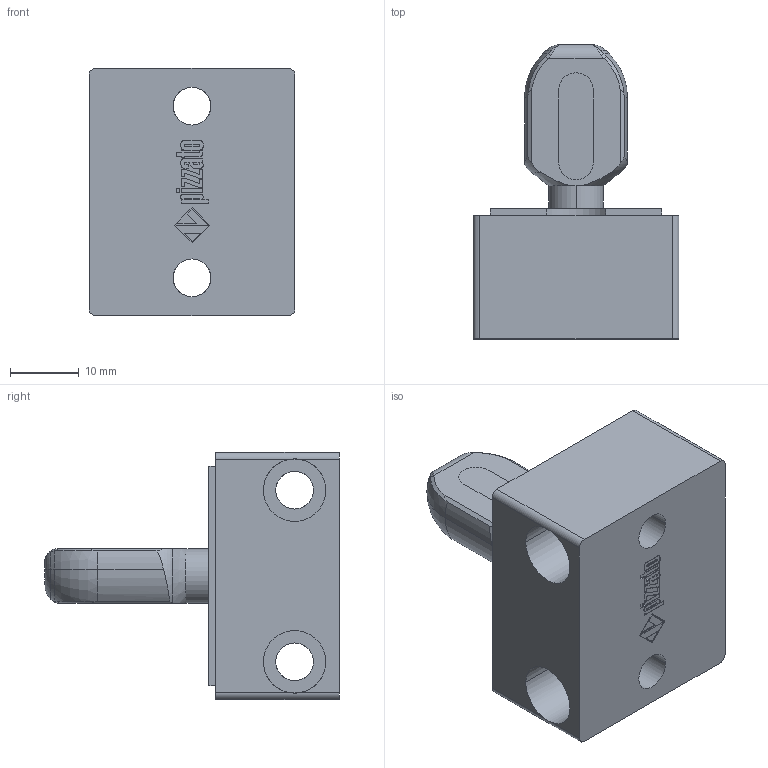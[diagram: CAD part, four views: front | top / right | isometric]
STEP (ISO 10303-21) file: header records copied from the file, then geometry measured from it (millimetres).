
FILE_DESCRIPTION (( 'STEP AP203' ), '1' );
FILE_NAME ('ZF_STEP_VN_NX-F6x.STEP', '2025-08-04T09:08:37', ( '' ), ( '' ), 'SwSTEP 2.0', 'SolidWorks 2023', '' );
FILE_SCHEMA (( 'CONFIG_CONTROL_DESIGN' ));
Length unit declared in the file: millimetre
Products named in the file (3): ZF_STEP_VN_NX-F6x; NX-Perno azionatore_default; VN_NX-F6x_web
Assembly tree (2 placements, depth 2):
  ZF_STEP_VN_NX-F6x
    VN_NX-F6x_web
    NX-Perno azionatore_default
Bounding box: 30 x 42.9 x 36 mm (x, y, z)
Volume: 17115.7 mm3; surface area: 9368.6 mm2
Topology: 3 solids, 3 shells, 301 faces, 779 edges, 500 vertices
Faces by surface type: plane 150, cylinder 71, bspline 54, torus 19, cone 5, sphere 2
Entity records: 10730 total; most frequent: CARTESIAN_POINT 3475, ORIENTED_EDGE 1550, DIRECTION 1258, EDGE_CURVE 775, VERTEX_POINT 500, LINE 434, VECTOR 434, AXIS2_PLACEMENT_3D 412
